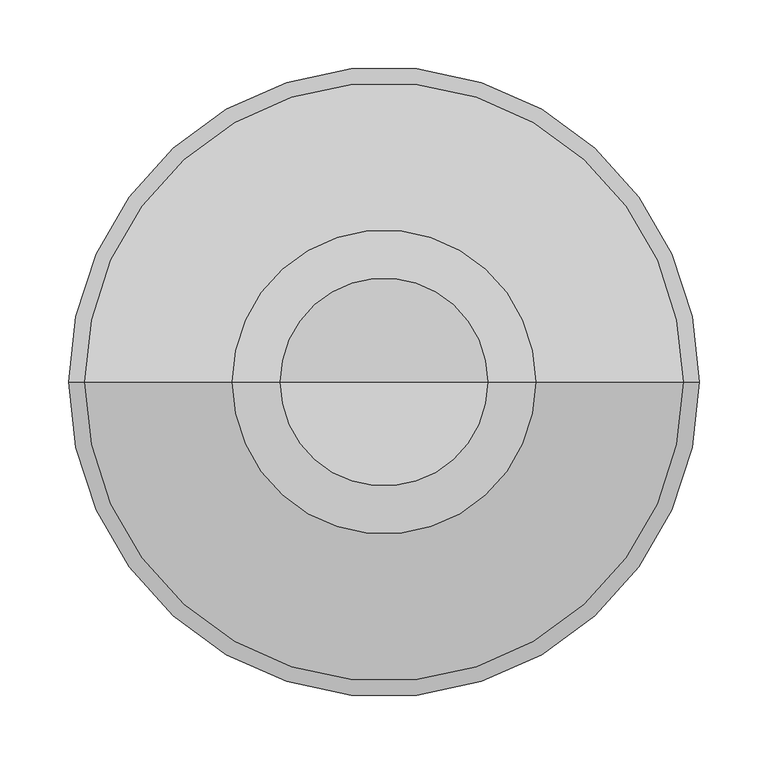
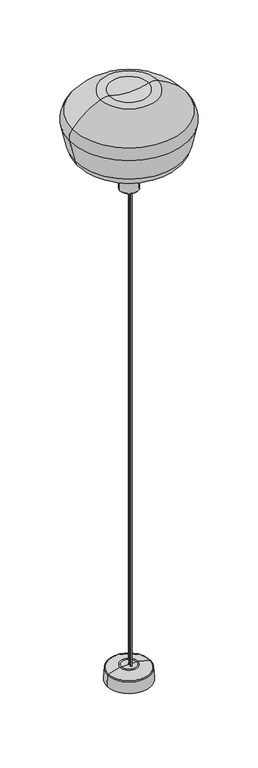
"""IFC4 building model written with IfcOpenShell, lengths in millimetres: light fixture geometry, RBW-Pomme-Pendant : PM-L-MT."""

from ifc_helpers import new_model, si_unit, point, frame, frame_2d, origin, place, context, project, spatial, polyline, circle_curve, ellipse_curve, trimmed, segment, composite_curve, outline, extrude, source, transform, mapped, element, save
from ifc_brep_helpers import plane_surface, cylinder_surface, revolved_surface, advanced_brep


def light_fixture_f22c2947(model_context):
    return source(origin(), model_context, "Body", "SolidModel", [
        advanced_brep(
        [(-174.086353, 3.5438286, 2123.0961759), (174.086353, 3.5438286, 2123.0961759), (128.396134, 3.5438286, 2107.0347846), (-128.396134, 3.5438286, 2107.0347846), (-206.831088, 3.5438286, 2160.4327408), (206.831088, 3.5438286, 2160.4327408), (-227.2502717, 3.5438286, 2248.8779426), (227.2502717, 3.5438286, 2248.8779426), (-217.2672733, 3.5438286, 2293.3239264), (217.2672733, 3.5438286, 2293.3239264), (-110.3658986, 3.5438286, 2375.4365144), (110.3658986, 3.5438286, 2375.4365144), (-75.5994902, 3.5438286, 2377.6852398), (75.5994902, 3.5438286, 2377.6852398), (0.0, 3.5438286, 2367.197952), (0.0, 3.5438286, 2107.0347846)],
        [
            (0, 1, circle_curve(frame((0.0, 3.5438286, 2123.0961759), z_axis=(0.0, 0.0, -1.0), x_axis=(1.0, 0.0, 0.0)), 174.086353)),
            (1, 2, circle_curve(frame((-256.0808199, 3.5438286, 3273.7841665), z_axis=(0.0, 1.0, 0.0), x_axis=(1.0, 0.0, 0.0)), 1228.4651596)),
            (2, 3, circle_curve(frame((0.0, 3.5438286, 2107.0347846), z_axis=(0.0, 0.0, 1.0), x_axis=(1.0, 0.0, 0.0)), 128.396134)),
            (3, 0, circle_curve(frame((256.0808199, 3.5438286, 3273.7841665), z_axis=(0.0, 1.0, 0.0), x_axis=(-1.0, 0.0, 0.0)), 1228.4651596)),
            (1, 0, circle_curve(frame((0.0, 3.5438286, 2123.0961759), z_axis=(0.0, 0.0, -1.0), x_axis=(1.0, 0.0, 0.0)), 174.086353)),
            (3, 2, circle_curve(frame((0.0, 3.5438286, 2107.0347846), z_axis=(0.0, 0.0, 1.0), x_axis=(1.0, 0.0, 0.0)), 128.396134)),
            (4, 5, circle_curve(frame((0.0, 3.5438286, 2160.4327408), z_axis=(0.0, 0.0, -1.0), x_axis=(1.0, 0.0, 0.0)), 206.831088)),
            (5, 1, circle_curve(frame((155.7171819, 3.5438286, 2172.2333158), z_axis=(0.0, 1.0, 0.0), x_axis=(1.0, 0.0, 0.0)), 52.4584117)),
            (0, 4, circle_curve(frame((-155.7171819, 3.5438286, 2172.2333158), z_axis=(0.0, 1.0, 0.0), x_axis=(-1.0, 0.0, 0.0)), 52.4584117)),
            (5, 4, circle_curve(frame((0.0, 3.5438286, 2160.4327408), z_axis=(0.0, 0.0, -1.0), x_axis=(1.0, 0.0, 0.0)), 206.831088)),
            (6, 7, circle_curve(frame((0.0, 3.5438286, 2248.8779426), z_axis=(0.0, 0.0, -1.0), x_axis=(1.0, 0.0, 0.0)), 227.2502717)),
            (7, 5),
            (4, 6),
            (7, 6, circle_curve(frame((0.0, 3.5438286, 2248.8779426), z_axis=(0.0, 0.0, -1.0), x_axis=(1.0, 0.0, 0.0)), 227.2502717)),
            (8, 9, circle_curve(frame((0.0, 3.5438286, 2293.3239264), z_axis=(0.0, 0.0, -1.0), x_axis=(1.0, 0.0, 0.0)), 217.2672733)),
            (9, 7, circle_curve(frame((175.9983183, 3.5438286, 2260.7103884), z_axis=(0.0, 1.0, 0.0), x_axis=(1.0, 0.0, 0.0)), 52.6000904)),
            (6, 8, circle_curve(frame((-175.9983183, 3.5438286, 2260.7103884), z_axis=(0.0, 1.0, 0.0), x_axis=(-1.0, 0.0, 0.0)), 52.6000904)),
            (9, 8, circle_curve(frame((0.0, 3.5438286, 2293.3239264), z_axis=(0.0, 0.0, -1.0), x_axis=(1.0, 0.0, 0.0)), 217.2672733)),
            (10, 11, circle_curve(frame((0.0, 3.5438286, 2375.4365144), z_axis=(0.0, 0.0, -1.0), x_axis=(1.0, 0.0, 0.0)), 110.3658986)),
            (11, 9, circle_curve(frame((1.006853, 3.5438286, 2122.4202188), z_axis=(0.0, 1.0, 0.0), x_axis=(1.0, 0.0, 0.0)), 275.6386161)),
            (8, 10, circle_curve(frame((-1.006853, 3.5438286, 2122.4202188), z_axis=(0.0, 1.0, 0.0), x_axis=(-1.0, 0.0, 0.0)), 275.6386161)),
            (11, 10, circle_curve(frame((0.0, 3.5438286, 2375.4365144), z_axis=(0.0, 0.0, -1.0), x_axis=(1.0, 0.0, 0.0)), 110.3658986)),
            (12, 13, circle_curve(frame((0.0, 3.5438286, 2377.6852398), z_axis=(0.0, 0.0, -1.0), x_axis=(1.0, 0.0, 0.0)), 75.5994902)),
            (13, 11, circle_curve(frame((89.8380169, 3.5438286, 2327.9426051), z_axis=(0.0, 1.0, 0.0), x_axis=(1.0, 0.0, 0.0)), 51.7403648)),
            (10, 12, circle_curve(frame((-89.8380169, 3.5438286, 2327.9426051), z_axis=(0.0, 1.0, 0.0), x_axis=(-1.0, 0.0, 0.0)), 51.7403648)),
            (13, 12, circle_curve(frame((0.0, 3.5438286, 2377.6852398), z_axis=(0.0, 0.0, -1.0), x_axis=(1.0, 0.0, 0.0)), 75.5994902)),
            (14, 13, circle_curve(frame((0.8435577, 3.5438286, 2638.8468837), z_axis=(0.0, -1.0, 0.0), x_axis=(1.0, 0.0, 0.0)), 271.6502415)),
            (12, 14, circle_curve(frame((-0.8435577, 3.5438286, 2638.8468837), z_axis=(0.0, -1.0, 0.0), x_axis=(-1.0, 0.0, 0.0)), 271.6502415)),
            (2, 15),
            (15, 3),
        ],
        [
            revolved_surface(trimmed(ellipse_curve(frame((-256.0808199, 3.5438286, 3273.7841665), z_axis=(0.0, -1.0, 0.0), x_axis=(1.0, 0.0, 0.0)), 1228.4651596, 1228.4651596), [point((128.396134, 3.5438286, 2107.0347846))], [point((174.086353, 3.5438286, 2123.0961759))], True, "CARTESIAN"), (0.0, 3.5438286, 2406.65), (0.0, 0.0, 1.0)),
            revolved_surface(trimmed(ellipse_curve(frame((155.7171819, 3.5438286, 2172.2333158), z_axis=(0.0, -1.0, 0.0), x_axis=(1.0, 0.0, 0.0)), 52.4584117, 52.4584117), [point((174.086353, 3.5438286, 2123.0961759))], [point((206.831088, 3.5438286, 2160.4327408))], True, "CARTESIAN"), (0.0, 3.5438286, 2406.65), (0.0, 0.0, 1.0)),
            revolved_surface(polyline([(206.831088, 3.5438286, 2160.4327408), (227.2502717, 3.5438286, 2248.8779426)]), (0.0, 3.5438286, 2406.65), (0.0, 0.0, 1.0)),
            revolved_surface(trimmed(ellipse_curve(frame((175.9983183, 3.5438286, 2260.7103884), z_axis=(0.0, -1.0, 0.0), x_axis=(1.0, 0.0, 0.0)), 52.6000904, 52.6000904), [point((227.2502717, 3.5438286, 2248.8779426))], [point((217.2672733, 3.5438286, 2293.3239264))], True, "CARTESIAN"), (0.0, 3.5438286, 2406.65), (0.0, 0.0, 1.0)),
            revolved_surface(trimmed(ellipse_curve(frame((1.006853, 3.5438286, 2122.4202188), z_axis=(0.0, -1.0, 0.0), x_axis=(1.0, 0.0, 0.0)), 275.6386161, 275.6386161), [point((217.2672733, 3.5438286, 2293.3239264))], [point((110.3658986, 3.5438286, 2375.4365144))], True, "CARTESIAN"), (0.0, 3.5438286, 2406.65), (0.0, 0.0, 1.0)),
            revolved_surface(trimmed(ellipse_curve(frame((89.8380169, 3.5438286, 2327.9426051), z_axis=(0.0, -1.0, 0.0), x_axis=(1.0, 0.0, 0.0)), 51.7403648, 51.7403648), [point((110.3658986, 3.5438286, 2375.4365144))], [point((75.5994902, 3.5438286, 2377.6852398))], True, "CARTESIAN"), (0.0, 3.5438286, 2406.65), (0.0, 0.0, 1.0)),
            revolved_surface(trimmed(ellipse_curve(frame((0.8435577, 3.5438286, 2638.8468837), z_axis=(0.0, 1.0, 0.0), x_axis=(1.0, 0.0, 0.0)), 271.6502415, 271.6502415), [point((75.5994902, 3.5438286, 2377.6852398))], [point((0.0, 3.5438286, 2367.197952))], True, "CARTESIAN"), (0.0, 3.5438286, 2406.65), (0.0, 0.0, 1.0)),
            plane_surface(frame((0.0, 3.5438286, 2107.0347846), z_axis=(0.0, 0.0, -1.0), x_axis=(1.0, 0.0, 0.0))),
        ],
        [
            (0, [[1, 2, 3, 4]]),
            (0, [[5, -4, 6, -2]]),
            (1, [[7, 8, -1, 9]]),
            (1, [[10, -9, -5, -8]]),
            (2, [[11, 12, -7, 13]]),
            (2, [[14, -13, -10, -12]]),
            (3, [[15, 16, -11, 17]]),
            (3, [[18, -17, -14, -16]]),
            (4, [[19, 20, -15, 21]]),
            (4, [[22, -21, -18, -20]]),
            (5, [[23, 24, -19, 25]]),
            (5, [[26, -25, -22, -24]]),
            (6, [[27, -23, 28]]),
            (6, [[-28, -26, -27]]),
            (7, [[-3, 29, 30]]),
            (7, [[-6, -30, -29]]),
        ],
    ),
        advanced_brep(
        [(-32.7422927, 3.5438286, 1981.2), (32.7422927, 3.5438286, 1981.2), (32.7422927, 3.5438286, 2042.8665349), (-32.7422927, 3.5438286, 2042.8665349), (-34.2636296, 3.5438286, 1981.2), (34.2636296, 3.5438286, 1981.2), (-35.2499174, 3.5438286, 1982.1862878), (35.2499174, 3.5438286, 1982.1862878), (-35.2499174, 3.5438286, 2042.8813183), (35.2499174, 3.5438286, 2042.8813183), (-132.385207, 3.5438286, 2104.6492575), (132.385207, 3.5438286, 2104.6492575), (58.1050818, 3.5438286, 2076.1357889), (-58.1050818, 3.5438286, 2076.1357889), (-131.9431872, 3.5438286, 2107.0341825), (131.9431872, 3.5438286, 2107.0341825), (0.0, 3.5438286, 2107.0341825), (0.0, 3.5438286, 2042.8665349)],
        [
            (0, 1, circle_curve(frame((0.0, 3.5438286, 1981.2), z_axis=(0.0, 0.0, -1.0), x_axis=(1.0, 0.0, 0.0)), 32.7422927)),
            (1, 2),
            (2, 3, circle_curve(frame((0.0, 3.5438286, 2042.8665349), z_axis=(0.0, 0.0, 1.0), x_axis=(1.0, 0.0, 0.0)), 32.7422927)),
            (3, 0),
            (1, 0, circle_curve(frame((0.0, 3.5438286, 1981.2), z_axis=(0.0, 0.0, -1.0), x_axis=(1.0, 0.0, 0.0)), 32.7422927)),
            (3, 2, circle_curve(frame((0.0, 3.5438286, 2042.8665349), z_axis=(0.0, 0.0, 1.0), x_axis=(1.0, 0.0, 0.0)), 32.7422927)),
            (4, 5, circle_curve(frame((0.0, 3.5438286, 1981.2), z_axis=(0.0, 0.0, -1.0), x_axis=(1.0, 0.0, 0.0)), 34.2636296)),
            (5, 1),
            (0, 4),
            (5, 4, circle_curve(frame((0.0, 3.5438286, 1981.2), z_axis=(0.0, 0.0, -1.0), x_axis=(1.0, 0.0, 0.0)), 34.2636296)),
            (6, 7, circle_curve(frame((0.0, 3.5438286, 1982.1862878), z_axis=(0.0, 0.0, -1.0), x_axis=(1.0, 0.0, 0.0)), 35.2499174)),
            (7, 5),
            (4, 6),
            (7, 6, circle_curve(frame((0.0, 3.5438286, 1982.1862878), z_axis=(0.0, 0.0, -1.0), x_axis=(1.0, 0.0, 0.0)), 35.2499174)),
            (8, 9, circle_curve(frame((0.0, 3.5438286, 2042.8813183), z_axis=(0.0, 0.0, -1.0), x_axis=(1.0, 0.0, 0.0)), 35.2499174)),
            (9, 7),
            (6, 8),
            (9, 8, circle_curve(frame((0.0, 3.5438286, 2042.8813183), z_axis=(0.0, 0.0, -1.0), x_axis=(1.0, 0.0, 0.0)), 35.2499174)),
            (10, 11, circle_curve(frame((0.0, 3.5438286, 2104.6492575), z_axis=(0.0, 0.0, -1.0), x_axis=(1.0, 0.0, 0.0)), 132.385207)),
            (11, 12),
            (12, 13, circle_curve(frame((0.0, 3.5438286, 2076.1357889), z_axis=(0.0, 0.0, 1.0), x_axis=(1.0, 0.0, 0.0)), 58.1050818)),
            (13, 10),
            (11, 10, circle_curve(frame((0.0, 3.5438286, 2104.6492575), z_axis=(0.0, 0.0, -1.0), x_axis=(1.0, 0.0, 0.0)), 132.385207)),
            (13, 12, circle_curve(frame((0.0, 3.5438286, 2076.1357889), z_axis=(0.0, 0.0, 1.0), x_axis=(1.0, 0.0, 0.0)), 58.1050818)),
            (14, 15, circle_curve(frame((0.0, 3.5438286, 2107.0341825), z_axis=(0.0, 0.0, -1.0), x_axis=(1.0, 0.0, 0.0)), 131.9431872)),
            (15, 11, circle_curve(frame((131.9431872, 3.5438286, 2105.8007582), z_axis=(0.0, 1.0, 0.0), x_axis=(1.0, 0.0, 0.0)), 1.2334243)),
            (10, 14, circle_curve(frame((-131.9431872, 3.5438286, 2105.8007582), z_axis=(0.0, 1.0, 0.0), x_axis=(-1.0, 0.0, 0.0)), 1.2334243)),
            (15, 14, circle_curve(frame((0.0, 3.5438286, 2107.0341825), z_axis=(0.0, 0.0, -1.0), x_axis=(1.0, 0.0, 0.0)), 131.9431872)),
            (16, 15),
            (14, 16),
            (2, 17),
            (17, 3),
            (12, 9, circle_curve(frame((70.8702771, 3.5438286, 2042.8813183), z_axis=(0.0, -1.0, 0.0), x_axis=(1.0, 0.0, 0.0)), 35.6203597)),
            (8, 13, circle_curve(frame((-70.8702771, 3.5438286, 2042.8813183), z_axis=(0.0, -1.0, 0.0), x_axis=(-1.0, 0.0, 0.0)), 35.6203597)),
        ],
        [
            revolved_surface(polyline([(32.7422927, 3.5438286, 2042.8665349), (32.7422927, 3.5438286, 1981.2)]), (0.0, 3.5438286, 2209.8), (0.0, 0.0, 1.0)),
            plane_surface(frame((0.0, 3.5438286, 1981.2), z_axis=(0.0, 0.0, -1.0), x_axis=(1.0, 0.0, 0.0))),
            revolved_surface(polyline([(34.2636296, 3.5438286, 1981.2), (35.2499174, 3.5438286, 1982.1862878)]), (0.0, 3.5438286, 2209.8), (0.0, 0.0, 1.0)),
            cylinder_surface(frame((0.0, 3.5438286, 2209.8), z_axis=(0.0, 0.0, 1.0), x_axis=(1.0, 0.0, 0.0)), 35.2499174),
            revolved_surface(polyline([(58.1050818, 3.5438286, 2076.1357889), (132.385207, 3.5438286, 2104.6492575)]), (0.0, 3.5438286, 2209.8), (0.0, 0.0, 1.0)),
            revolved_surface(trimmed(ellipse_curve(frame((131.9431872, 3.5438286, 2105.8007582), z_axis=(0.0, -1.0, 0.0), x_axis=(1.0, 0.0, 0.0)), 1.2334243, 1.2334243), [point((132.385207, 3.5438286, 2104.6492575))], [point((131.9431872, 3.5438286, 2107.0341825))], True, "CARTESIAN"), (0.0, 3.5438286, 2209.8), (0.0, 0.0, 1.0)),
            plane_surface(frame((0.0, 3.5438286, 2107.0341825), z_axis=(0.0, 0.0, 1.0), x_axis=(1.0, 0.0, 0.0))),
            plane_surface(frame((0.0, 3.5438286, 2042.8665349), z_axis=(0.0, 0.0, -1.0), x_axis=(1.0, 0.0, 0.0))),
            revolved_surface(trimmed(ellipse_curve(frame((70.8702771, 3.5438286, 2042.8813183), z_axis=(0.0, 1.0, 0.0), x_axis=(1.0, 0.0, 0.0)), 35.6203597, 35.6203597), [point((35.2499174, 3.5438286, 2042.8813183))], [point((58.1050818, 3.5438286, 2076.1357889))], True, "CARTESIAN"), (0.0, 3.5438286, 2209.8), (0.0, 0.0, 1.0)),
        ],
        [
            (0, [[1, 2, 3, 4]]),
            (0, [[5, -4, 6, -2]]),
            (1, [[7, 8, -1, 9]]),
            (1, [[10, -9, -5, -8]]),
            (2, [[11, 12, -7, 13]]),
            (2, [[14, -13, -10, -12]]),
            (3, [[15, 16, -11, 17]]),
            (3, [[18, -17, -14, -16]]),
            (4, [[19, 20, 21, 22]]),
            (4, [[23, -22, 24, -20]]),
            (5, [[25, 26, -19, 27]]),
            (5, [[28, -27, -23, -26]]),
            (6, [[29, -25, 30]]),
            (6, [[-30, -28, -29]]),
            (7, [[-3, 31, 32]]),
            (7, [[-6, -32, -31]]),
            (8, [[-21, 33, -15, 34]]),
            (8, [[-24, -34, -18, -33]]),
        ],
    ),
        advanced_brep(
        [(-1.9558002, 3.5438286, 60.1756874), (1.9558002, 3.5438286, 60.1756874), (0.0, 3.5438286, 60.1756874), (-1.9558002, 3.5438286, 63.6557075), (1.9558002, 3.5438286, 63.6557075), (0.0, 3.5438286, 63.6557075)],
        [
            (0, 1, circle_curve(frame((0.0, 3.5438286, 60.1756874), z_axis=(0.0, 0.0, -1.0), x_axis=(1.0, 0.0, 0.0)), 1.9558002)),
            (1, 2),
            (2, 0),
            (1, 0, circle_curve(frame((0.0, 3.5438286, 60.1756874), z_axis=(0.0, 0.0, -1.0), x_axis=(1.0, 0.0, 0.0)), 1.9558002)),
            (3, 4, circle_curve(frame((0.0, 3.5438286, 63.6557075), z_axis=(0.0, 0.0, -1.0), x_axis=(1.0, 0.0, 0.0)), 1.9558002)),
            (4, 1),
            (0, 3),
            (4, 3, circle_curve(frame((0.0, 3.5438286, 63.6557075), z_axis=(0.0, 0.0, -1.0), x_axis=(1.0, 0.0, 0.0)), 1.9558002)),
            (5, 4),
            (3, 5),
        ],
        [
            plane_surface(frame((0.0, 3.5438286, 60.1756874), z_axis=(0.0, 0.0, -1.0), x_axis=(1.0, 0.0, 0.0))),
            cylinder_surface(frame((0.0, 3.5438286, 54.595764), z_axis=(0.0, 0.0, 1.0), x_axis=(1.0, 0.0, 0.0)), 1.9558002),
            plane_surface(frame((0.0, 3.5438286, 63.6557075), z_axis=(0.0, 0.0, 1.0), x_axis=(1.0, 0.0, 0.0))),
        ],
        [
            (0, [[1, 2, 3]]),
            (0, [[4, -3, -2]]),
            (1, [[5, 6, -1, 7]]),
            (1, [[8, -7, -4, -6]]),
            (2, [[9, -5, 10]]),
            (2, [[-10, -8, -9]]),
        ],
    ),
        advanced_brep(
        [(-79.8801234, 3.5438286, 47.9855508), (79.8801234, 3.5438286, 47.9855508), (81.8450297, 3.5438286, 45.5746225), (-81.8450297, 3.5438286, 45.5746225), (-35.5973952, 3.5438286, 59.3750688), (35.5973952, 3.5438286, 59.3750688), (-29.2704342, 3.5438286, 60.1756874), (29.2704342, 3.5438286, 60.1756874), (0.0, 3.5438286, 60.1756874), (-84.0611662, 3.5438286, 0.0), (84.0611662, 3.5438286, 0.0), (0.0, 3.5438286, 0.0)],
        [
            (0, 1, circle_curve(frame((0.0, 3.5438286, 47.9855508), z_axis=(0.0, 0.0, -1.0), x_axis=(1.0, 0.0, 0.0)), 79.8801234)),
            (1, 2, circle_curve(frame((79.2272933, 3.5438286, 45.4473311), z_axis=(0.0, 1.0, 0.0), x_axis=(1.0, 0.0, 0.0)), 2.6208294)),
            (2, 3, circle_curve(frame((0.0, 3.5438286, 45.5746225), z_axis=(0.0, 0.0, 1.0), x_axis=(1.0, 0.0, 0.0)), 81.8450297)),
            (3, 0, circle_curve(frame((-79.2272933, 3.5438286, 45.4473311), z_axis=(0.0, 1.0, 0.0), x_axis=(-1.0, 0.0, 0.0)), 2.6208294)),
            (1, 0, circle_curve(frame((0.0, 3.5438286, 47.9855508), z_axis=(0.0, 0.0, -1.0), x_axis=(1.0, 0.0, 0.0)), 79.8801234)),
            (3, 2, circle_curve(frame((0.0, 3.5438286, 45.5746225), z_axis=(0.0, 0.0, 1.0), x_axis=(1.0, 0.0, 0.0)), 81.8450297)),
            (4, 5, circle_curve(frame((0.0, 3.5438286, 59.3750688), z_axis=(0.0, 0.0, -1.0), x_axis=(1.0, 0.0, 0.0)), 35.5973952)),
            (5, 1),
            (0, 4),
            (5, 4, circle_curve(frame((0.0, 3.5438286, 59.3750688), z_axis=(0.0, 0.0, -1.0), x_axis=(1.0, 0.0, 0.0)), 35.5973952)),
            (6, 7, circle_curve(frame((0.0, 3.5438286, 60.1756874), z_axis=(0.0, 0.0, -1.0), x_axis=(1.0, 0.0, 0.0)), 29.2704342)),
            (7, 5, circle_curve(frame((29.2704342, 3.5438286, 34.7756874), z_axis=(0.0, 1.0, 0.0), x_axis=(1.0, 0.0, 0.0)), 25.4)),
            (4, 6, circle_curve(frame((-29.2704342, 3.5438286, 34.7756874), z_axis=(0.0, 1.0, 0.0), x_axis=(-1.0, 0.0, 0.0)), 25.4)),
            (7, 6, circle_curve(frame((0.0, 3.5438286, 60.1756874), z_axis=(0.0, 0.0, -1.0), x_axis=(1.0, 0.0, 0.0)), 29.2704342)),
            (8, 7),
            (6, 8),
            (9, 10, circle_curve(frame((0.0, 3.5438286, 0.0), z_axis=(0.0, 0.0, -1.0), x_axis=(1.0, 0.0, 0.0)), 84.0611662)),
            (10, 11),
            (11, 9),
            (10, 9, circle_curve(frame((0.0, 3.5438286, 0.0), z_axis=(0.0, 0.0, -1.0), x_axis=(1.0, 0.0, 0.0)), 84.0611662)),
            (2, 10),
            (9, 3),
        ],
        [
            revolved_surface(trimmed(ellipse_curve(frame((79.2272933, 3.5438286, 45.4473311), z_axis=(0.0, -1.0, 0.0), x_axis=(1.0, 0.0, 0.0)), 2.6208294, 2.6208294), [point((81.8450297, 3.5438286, 45.5746225))], [point((79.8801234, 3.5438286, 47.9855508))], True, "CARTESIAN"), (0.0, 3.5438286, -38.1), (0.0, 0.0, 1.0)),
            revolved_surface(polyline([(79.8801234, 3.5438286, 47.9855508), (35.5973952, 3.5438286, 59.3750688)]), (0.0, 3.5438286, -38.1), (0.0, 0.0, 1.0)),
            revolved_surface(trimmed(ellipse_curve(frame((29.2704342, 3.5438286, 34.7756874), z_axis=(0.0, -1.0, 0.0), x_axis=(1.0, 0.0, 0.0)), 25.4, 25.4), [point((35.5973952, 3.5438286, 59.3750688))], [point((29.2704342, 3.5438286, 60.1756874))], True, "CARTESIAN"), (0.0, 3.5438286, -38.1), (0.0, 0.0, 1.0)),
            plane_surface(frame((0.0, 3.5438286, 60.1756874), z_axis=(0.0, 0.0, 1.0), x_axis=(1.0, 0.0, 0.0))),
            plane_surface(frame((0.0, 3.5438286, 0.0), z_axis=(0.0, 0.0, -1.0), x_axis=(1.0, 0.0, 0.0))),
            revolved_surface(polyline([(84.0611662, 3.5438286, 0.0), (81.8450297, 3.5438286, 45.5746225)]), (0.0, 3.5438286, -38.1), (0.0, 0.0, 1.0)),
        ],
        [
            (0, [[1, 2, 3, 4]]),
            (0, [[5, -4, 6, -2]]),
            (1, [[7, 8, -1, 9]]),
            (1, [[10, -9, -5, -8]]),
            (2, [[11, 12, -7, 13]]),
            (2, [[14, -13, -10, -12]]),
            (3, [[15, -11, 16]]),
            (3, [[-16, -14, -15]]),
            (4, [[17, 18, 19]]),
            (4, [[20, -19, -18]]),
            (5, [[-3, 21, -17, 22]]),
            (5, [[-6, -22, -20, -21]]),
        ],
    ),
        extrude(outline(composite_curve([segment(trimmed(circle_curve(frame_2d((0.0, -10.4593129)), 3.1077965), [point((-3.1077965, -10.4593129))], [point((3.1077965, -10.4593129))], False, "CARTESIAN"), True, "CONTINUOUS"), segment(trimmed(circle_curve(frame_2d((0.0, -10.4593129)), 3.1077965), [point((3.1077965, -10.4593129))], [point((-3.1077965, -10.4593129))], False, "CARTESIAN"), True, "CONTINUOUS")], self_intersect=False)), frame((0.0, 0.0, 60.1756874), z_axis=(0.0, 0.0, 1.0), x_axis=(1.0, 0.0, 0.0)), (0.0, 0.0, 1.0), 1989.2332569),
        extrude(outline(composite_curve([segment(trimmed(circle_curve(frame_2d((0.0, 3.5438286)), 0.782962), [point((-0.782962, 3.5438286))], [point((0.782962, 3.5438286))], False, "CARTESIAN"), True, "CONTINUOUS"), segment(trimmed(circle_curve(frame_2d((0.0, 3.5438286)), 0.782962), [point((0.782962, 3.5438286))], [point((-0.782962, 3.5438286))], False, "CARTESIAN"), True, "CONTINUOUS")], self_intersect=False)), frame((0.0, 0.0, 63.6557075), z_axis=(0.0, 0.0, 1.0), x_axis=(1.0, 0.0, 0.0)), (0.0, 0.0, 1.0), 1985.7532367),
    ])


if __name__ == "__main__":
    model = new_model("IFC4")
    model_context = context("Model", 3, world=origin())
    ifc_project = project(units=[si_unit("LENGTHUNIT", "METRE", prefix="MILLI")], contexts=[model_context])
    site = spatial("IfcSite", under=ifc_project)
    building = spatial("IfcBuilding", under=site)
    placement = place(None, origin())
    light_fixture_shape = light_fixture_f22c2947(model_context)
    element("IfcLightFixture", 1, ObjectType="RBW-Pomme-Pendant : PM-L-MT", at=placement, inside=building, context=model_context, shape_type="MappedRepresentation", body=[
        mapped(light_fixture_shape, transform((0.0, 0.0, 0.0), x_axis=(1.0, 0.0, 0.0), y_axis=(0.0, 1.0, 0.0), z_axis=(0.0, 0.0, 1.0))),
    ])
    save(model, "model.ifc")
